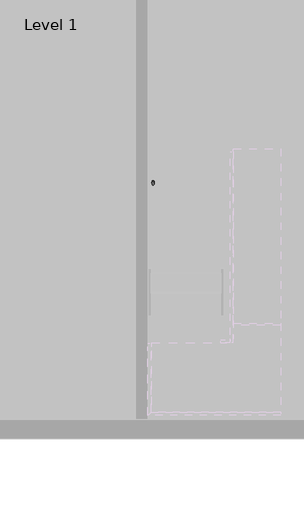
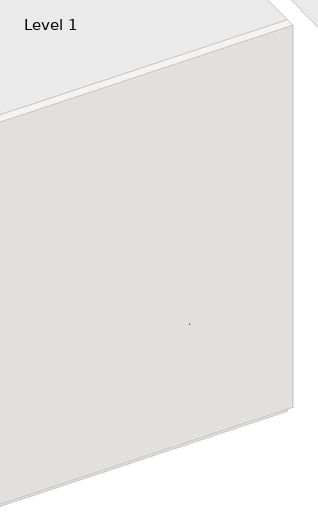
# One storey, part 20 of 27: 1 railing.
"""IFC4 building model written with IfcOpenShell, lengths in millimetres."""

from ifc_helpers import new_model, si_unit, point, frame, frame_2d, origin, place, context, project, spatial, circle_curve, ellipse_curve, trimmed, segment, composite_curve, outline, extrude, element, save
from ifc_brep_helpers import plane_surface, cylinder_surface, revolved_surface, advanced_brep

model = new_model("IFC4")

# Units and contexts
model_context = context("Model", 3, world=origin())
ifc_project = project(units=[si_unit("LENGTHUNIT", "METRE", prefix="MILLI")], contexts=[model_context])

# Site, building, storey
site = spatial("IfcSite", under=ifc_project)
building = spatial("IfcBuilding", under=site)
storey = spatial("IfcBuildingStorey", under=building, Name="Level 1", Elevation=0.0)

# Railing
placement = place(None, origin())
element("IfcRailing", 1, ObjectType="Handrail - Pipe - Wall-Ramp", at=placement, inside=storey, context=model_context, shape_type="SolidModel", body=[
    advanced_brep(
    [(54299.9173382, -19540.7006057, 4864.631259), (54261.8173382, -19540.7006057, 4864.631259), (54299.9173382, -22290.7006057, 6591.9039863), (54261.8173382, -22290.7006057, 6591.9039863)],
    [
        (0, 1, ellipse_curve(frame((54280.8673382, -19540.7006057, 4864.631259), z_axis=(0.0, 1.0, 0.0), x_axis=(0.0, 0.0, -1.0)), 22.496014, 19.05)),
        (1, 0, ellipse_curve(frame((54280.8673382, -19540.7006057, 4864.631259), z_axis=(0.0, 1.0, 0.0), x_axis=(0.0, 0.0, -1.0)), 22.496014, 19.05)),
        (2, 3, ellipse_curve(frame((54280.8673382, -22290.7006057, 6591.9039863), z_axis=(0.0, -1.0, 0.0), x_axis=(0.0, 0.0, -1.0)), 22.496014, 19.05)),
        (3, 2, ellipse_curve(frame((54280.8673382, -22290.7006057, 6591.9039863), z_axis=(0.0, -1.0, 0.0), x_axis=(0.0, 0.0, -1.0)), 22.496014, 19.05)),
        (0, 2),
        (3, 1),
    ],
    [
        plane_surface(frame((54280.8673382, -19540.7006057, 4887.127273), z_axis=(0.0, 1.0, 0.0), x_axis=(0.0, 0.0, -1.0))),
        plane_surface(frame((54280.8673382, -22290.7006057, 6614.4000003), z_axis=(0.0, -1.0, 0.0), x_axis=(0.0, 0.0, -1.0))),
        cylinder_surface(frame((54280.8673382, -19550.8330123, 4870.9954152), z_axis=(0.0, 0.8468166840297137, -0.5318848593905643), x_axis=(-1.0, 0.0, 0.0)), 19.05),
    ],
    [
        (0, [[1, 2]]),
        (1, [[3, 4]]),
        (2, [[-1, 5, -4, 6]]),
        (2, [[-2, -6, -3, -5]]),
    ],
),
    advanced_brep(
    [(54280.9173382, -21518.9506057, 6119.6028929), (54280.9173382, -21531.6506057, 6119.6028929), (54280.9173382, -21518.9506057, 6062.4528929), (54280.9173382, -21531.6506057, 6062.4528929), (54261.8673382, -21531.6506057, 6043.4028929), (54261.8673382, -21518.9506057, 6043.4028929), (54233.2923382, -21518.9506057, 6043.4028929), (54233.2923382, -21531.6506057, 6043.4028929)],
    [
        (0, 1, circle_curve(frame((54280.9173382, -21525.3006057, 6119.6028929), z_axis=(0.0, 0.0, 1.0), x_axis=(0.0, -1.0, 0.0)), 6.35)),
        (1, 0, circle_curve(frame((54280.9173382, -21525.3006057, 6119.6028929), z_axis=(0.0, 0.0, 1.0), x_axis=(0.0, -1.0, 0.0)), 6.35)),
        (0, 2),
        (2, 3, circle_curve(frame((54280.9173382, -21525.3006057, 6062.4528929), z_axis=(0.0, 0.0, 1.0), x_axis=(0.0, -1.0, 0.0)), 6.35)),
        (3, 1),
        (3, 2, circle_curve(frame((54280.9173382, -21525.3006057, 6062.4528929), z_axis=(0.0, 0.0, 1.0), x_axis=(0.0, -1.0, 0.0)), 6.35)),
        (4, 3, circle_curve(frame((54261.8673382, -21531.6506057, 6062.4528929), z_axis=(0.0, -1.0, 0.0), x_axis=(1.0, 0.0, 0.0)), 19.05)),
        (2, 5, circle_curve(frame((54261.8673382, -21518.9506057, 6062.4528929), z_axis=(0.0, 1.0, 0.0), x_axis=(1.0, 0.0, 0.0)), 19.05)),
        (5, 4, circle_curve(frame((54261.8673382, -21525.3006057, 6043.4028929), z_axis=(1.0, 0.0, 0.0), x_axis=(0.0, -1.0, 0.0)), 6.35)),
        (4, 5, circle_curve(frame((54261.8673382, -21525.3006057, 6043.4028929), z_axis=(1.0, 0.0, 0.0), x_axis=(0.0, -1.0, 0.0)), 6.35)),
        (6, 7, circle_curve(frame((54233.2923382, -21525.3006057, 6043.4028929), z_axis=(-1.0, 0.0, 0.0), x_axis=(0.0, -1.0, 0.0)), 6.35)),
        (7, 6, circle_curve(frame((54233.2923382, -21525.3006057, 6043.4028929), z_axis=(-1.0, 0.0, 0.0), x_axis=(0.0, -1.0, 0.0)), 6.35)),
        (5, 6),
        (7, 4),
    ],
    [
        plane_surface(frame((54280.9173382, -21531.6506057, 6119.6028929), z_axis=(0.0, 0.0, 1.0), x_axis=(-1.0, 0.0, 0.0))),
        cylinder_surface(frame((54280.9173382, -21525.3006057, 6119.6028929), z_axis=(0.0, 0.0, 1.0), x_axis=(0.0, -1.0, 0.0)), 6.35),
        revolved_surface(trimmed(ellipse_curve(frame((54280.9173382, -21525.3006057, 6062.4528929), z_axis=(0.0, 0.0, 1.0), x_axis=(0.0, -1.0, 0.0)), 6.35, 6.35), [point((54280.9173382, -21518.9506057, 6062.4528929))], [point((54280.9173382, -21531.6506057, 6062.4528929))], True, "CARTESIAN"), (54261.8673382, -21525.3006057, 6062.4528929), (0.0, 1.0, 0.0)),
        revolved_surface(trimmed(ellipse_curve(frame((54280.9173382, -21525.3006057, 6062.4528929), z_axis=(0.0, 0.0, 1.0), x_axis=(0.0, -1.0, 0.0)), 6.35, 6.35), [point((54280.9173382, -21531.6506057, 6062.4528929))], [point((54280.9173382, -21518.9506057, 6062.4528929))], True, "CARTESIAN"), (54261.8673382, -21525.3006057, 6062.4528929), (0.0, 1.0, 0.0)),
        plane_surface(frame((54233.2923382, -21525.3006057, 6037.0528929), z_axis=(-1.0, 0.0, 0.0), x_axis=(0.0, -1.0, 0.0))),
        cylinder_surface(frame((54261.8673382, -21525.3006057, 6043.4028929), z_axis=(1.0, 0.0, 0.0), x_axis=(0.0, -1.0, 0.0)), 6.35),
    ],
    [
        (0, [[1, 2]]),
        (1, [[-1, 3, 4, 5]]),
        (1, [[-2, -5, 6, -3]]),
        (2, [[7, -4, 8, 9]]),
        (3, [[-8, -6, -7, 10]]),
        (4, [[11, 12]]),
        (5, [[-9, 13, -12, 14]]),
        (5, [[-10, -14, -11, -13]]),
    ],
),
    extrude(outline(composite_curve([segment(trimmed(circle_curve(frame_2d((-21525.3006057, 6043.4028929)), 25.4), [point((-21550.7006057, 6043.4028929))], [point((-21499.9006057, 6043.4028929))], False, "CARTESIAN"), True, "CONTINUOUS"), segment(trimmed(circle_curve(frame_2d((-21525.3006057, 6043.4028929)), 25.4), [point((-21499.9006057, 6043.4028929))], [point((-21550.7006057, 6043.4028929))], False, "CARTESIAN"), True, "CONTINUOUS")], self_intersect=False)), frame((54223.7673382, 0.0, 0.0), z_axis=(1.0, 0.0, 0.0), x_axis=(0.0, 1.0, 0.0)), (0.0, 0.0, 1.0), 9.525),
    advanced_brep(
    [(54280.9173382, -20299.7506057, 5353.8243805), (54280.9173382, -20312.4506057, 5353.8243805), (54280.9173382, -20299.7506057, 5296.6743805), (54280.9173382, -20312.4506057, 5296.6743805), (54261.8673382, -20312.4506057, 5277.6243805), (54261.8673382, -20299.7506057, 5277.6243805), (54233.2923382, -20299.7506057, 5277.6243805), (54233.2923382, -20312.4506057, 5277.6243805)],
    [
        (0, 1, circle_curve(frame((54280.9173382, -20306.1006057, 5353.8243805), z_axis=(0.0, 0.0, 1.0), x_axis=(0.0, -1.0, 0.0)), 6.35)),
        (1, 0, circle_curve(frame((54280.9173382, -20306.1006057, 5353.8243805), z_axis=(0.0, 0.0, 1.0), x_axis=(0.0, -1.0, 0.0)), 6.35)),
        (0, 2),
        (2, 3, circle_curve(frame((54280.9173382, -20306.1006057, 5296.6743805), z_axis=(0.0, 0.0, 1.0), x_axis=(0.0, -1.0, 0.0)), 6.35)),
        (3, 1),
        (3, 2, circle_curve(frame((54280.9173382, -20306.1006057, 5296.6743805), z_axis=(0.0, 0.0, 1.0), x_axis=(0.0, -1.0, 0.0)), 6.35)),
        (4, 3, circle_curve(frame((54261.8673382, -20312.4506057, 5296.6743805), z_axis=(0.0, -1.0, 0.0), x_axis=(1.0, 0.0, 0.0)), 19.05)),
        (2, 5, circle_curve(frame((54261.8673382, -20299.7506057, 5296.6743805), z_axis=(0.0, 1.0, 0.0), x_axis=(1.0, 0.0, 0.0)), 19.05)),
        (5, 4, circle_curve(frame((54261.8673382, -20306.1006057, 5277.6243805), z_axis=(1.0, 0.0, 0.0), x_axis=(0.0, -1.0, 0.0)), 6.35)),
        (4, 5, circle_curve(frame((54261.8673382, -20306.1006057, 5277.6243805), z_axis=(1.0, 0.0, 0.0), x_axis=(0.0, -1.0, 0.0)), 6.35)),
        (6, 7, circle_curve(frame((54233.2923382, -20306.1006057, 5277.6243805), z_axis=(-1.0, 0.0, 0.0), x_axis=(0.0, -1.0, 0.0)), 6.35)),
        (7, 6, circle_curve(frame((54233.2923382, -20306.1006057, 5277.6243805), z_axis=(-1.0, 0.0, 0.0), x_axis=(0.0, -1.0, 0.0)), 6.35)),
        (5, 6),
        (7, 4),
    ],
    [
        plane_surface(frame((54280.9173382, -20312.4506057, 5353.8243805), z_axis=(0.0, 0.0, 1.0), x_axis=(-1.0, 0.0, 0.0))),
        cylinder_surface(frame((54280.9173382, -20306.1006057, 5353.8243805), z_axis=(0.0, 0.0, 1.0), x_axis=(0.0, -1.0, 0.0)), 6.35),
        revolved_surface(trimmed(ellipse_curve(frame((54280.9173382, -20306.1006057, 5296.6743805), z_axis=(0.0, 0.0, 1.0), x_axis=(0.0, -1.0, 0.0)), 6.35, 6.35), [point((54280.9173382, -20299.7506057, 5296.6743805))], [point((54280.9173382, -20312.4506057, 5296.6743805))], True, "CARTESIAN"), (54261.8673382, -20306.1006057, 5296.6743805), (0.0, 1.0, 0.0)),
        revolved_surface(trimmed(ellipse_curve(frame((54280.9173382, -20306.1006057, 5296.6743805), z_axis=(0.0, 0.0, 1.0), x_axis=(0.0, -1.0, 0.0)), 6.35, 6.35), [point((54280.9173382, -20312.4506057, 5296.6743805))], [point((54280.9173382, -20299.7506057, 5296.6743805))], True, "CARTESIAN"), (54261.8673382, -20306.1006057, 5296.6743805), (0.0, 1.0, 0.0)),
        plane_surface(frame((54233.2923382, -20306.1006057, 5271.2743805), z_axis=(-1.0, 0.0, 0.0), x_axis=(0.0, -1.0, 0.0))),
        cylinder_surface(frame((54261.8673382, -20306.1006057, 5277.6243805), z_axis=(1.0, 0.0, 0.0), x_axis=(0.0, -1.0, 0.0)), 6.35),
    ],
    [
        (0, [[1, 2]]),
        (1, [[-1, 3, 4, 5]]),
        (1, [[-2, -5, 6, -3]]),
        (2, [[7, -4, 8, 9]]),
        (3, [[-8, -6, -7, 10]]),
        (4, [[11, 12]]),
        (5, [[-9, 13, -12, 14]]),
        (5, [[-10, -14, -11, -13]]),
    ],
),
    extrude(outline(composite_curve([segment(trimmed(circle_curve(frame_2d((-20306.1006057, 5277.6243805)), 25.4), [point((-20331.5006057, 5277.6243805))], [point((-20280.7006057, 5277.6243805))], False, "CARTESIAN"), True, "CONTINUOUS"), segment(trimmed(circle_curve(frame_2d((-20306.1006057, 5277.6243805)), 25.4), [point((-20280.7006057, 5277.6243805))], [point((-20331.5006057, 5277.6243805))], False, "CARTESIAN"), True, "CONTINUOUS")], self_intersect=False)), frame((54223.7673382, 0.0, 0.0), z_axis=(1.0, 0.0, 0.0), x_axis=(0.0, 1.0, 0.0)), (0.0, 0.0, 1.0), 9.525),
    advanced_brep(
    [(54261.8673382, -22278.0006057, 6590.3731408), (54299.9673382, -22278.0006057, 6590.3731408), (54261.8673382, -22544.7006057, 6590.3731408), (54299.9673382, -22544.7006057, 6590.3731408), (54223.7673382, -22563.7506057, 6590.3731408), (54223.7673382, -22601.8506057, 6590.3731408), (54242.8173382, -22601.8506057, 6590.3731408), (54242.8173382, -22563.7506057, 6590.3731408)],
    [
        (0, 1, circle_curve(frame((54280.9173382, -22278.0006057, 6590.3731408), z_axis=(0.0, 1.0, 0.0), x_axis=(1.0, 0.0, 0.0)), 19.05)),
        (1, 0, circle_curve(frame((54280.9173382, -22278.0006057, 6590.3731408), z_axis=(0.0, 1.0, 0.0), x_axis=(1.0, 0.0, 0.0)), 19.05)),
        (0, 2),
        (2, 3, circle_curve(frame((54280.9173382, -22544.7006057, 6590.3731408), z_axis=(0.0, 1.0, 0.0), x_axis=(1.0, 0.0, 0.0)), 19.05)),
        (3, 1),
        (3, 2, circle_curve(frame((54280.9173382, -22544.7006057, 6590.3731408), z_axis=(0.0, 1.0, 0.0), x_axis=(1.0, 0.0, 0.0)), 19.05)),
        (4, 5, circle_curve(frame((54223.7673382, -22582.8006057, 6590.3731408), z_axis=(-1.0, 0.0, 0.0), x_axis=(0.0, -1.0, 0.0)), 19.05)),
        (5, 4, circle_curve(frame((54223.7673382, -22582.8006057, 6590.3731408), z_axis=(-1.0, 0.0, 0.0), x_axis=(0.0, -1.0, 0.0)), 19.05)),
        (6, 7, circle_curve(frame((54242.8173382, -22582.8006057, 6590.3731408), z_axis=(-1.0, 0.0, 0.0), x_axis=(0.0, -1.0, 0.0)), 19.05)),
        (7, 4),
        (5, 6),
        (7, 6, circle_curve(frame((54242.8173382, -22582.8006057, 6590.3731408), z_axis=(-1.0, 0.0, 0.0), x_axis=(0.0, -1.0, 0.0)), 19.05)),
        (6, 3, circle_curve(frame((54242.8173382, -22544.7006057, 6590.3731408), z_axis=(0.0, 0.0, 1.0), x_axis=(1.0, 0.0, 0.0)), 57.15)),
        (2, 7, circle_curve(frame((54242.8173382, -22544.7006057, 6590.3731408), z_axis=(0.0, 0.0, -1.0), x_axis=(1.0, 0.0, 0.0)), 19.05)),
    ],
    [
        plane_surface(frame((54280.9173382, -22278.0006057, 6590.3731408), z_axis=(0.0, 1.0, 0.0), x_axis=(0.0, 0.0, 1.0))),
        cylinder_surface(frame((54280.9173382, -22278.0006057, 6590.3731408), z_axis=(0.0, 1.0, 0.0), x_axis=(1.0, 0.0, 0.0)), 19.05),
        plane_surface(frame((54223.7673382, -22582.8006057, 6590.3731408), z_axis=(-1.0, 0.0, 0.0), x_axis=(0.0, 0.0, 1.0))),
        cylinder_surface(frame((54242.8173382, -22582.8006057, 6590.3731408), z_axis=(1.0, 0.0, 0.0), x_axis=(0.0, -1.0, 0.0)), 19.05),
        revolved_surface(trimmed(ellipse_curve(frame((54280.9173382, -22544.7006057, 6590.3731408), z_axis=(0.0, 1.0, 0.0), x_axis=(1.0, 0.0, 0.0)), 19.05, 19.05), [point((54261.8673382, -22544.7006057, 6590.3731408))], [point((54299.9673382, -22544.7006057, 6590.3731408))], True, "CARTESIAN"), (54242.8173382, -22544.7006057, 6590.3731408), (0.0, 0.0, -1.0)),
        revolved_surface(trimmed(ellipse_curve(frame((54280.9173382, -22544.7006057, 6590.3731408), z_axis=(0.0, 1.0, 0.0), x_axis=(1.0, 0.0, 0.0)), 19.05, 19.05), [point((54299.9673382, -22544.7006057, 6590.3731408))], [point((54261.8673382, -22544.7006057, 6590.3731408))], True, "CARTESIAN"), (54242.8173382, -22544.7006057, 6590.3731408), (0.0, 0.0, -1.0)),
    ],
    [
        (0, [[1, 2]]),
        (1, [[-1, 3, 4, 5]]),
        (1, [[-2, -5, 6, -3]]),
        (2, [[7, 8]]),
        (3, [[9, 10, -8, 11]]),
        (3, [[12, -11, -7, -10]]),
        (4, [[13, -4, 14, -9]]),
        (5, [[-14, -6, -13, -12]]),
    ],
),
    advanced_brep(
    [(54233.2923382, -22278.0006057, 6507.8231408), (54233.2923382, -22278.0006057, 6520.5231408), (54261.8673382, -22278.0006057, 6507.8231408), (54261.8673382, -22278.0006057, 6520.5231408), (54287.2673382, -22278.0006057, 6590.3731408), (54274.5673382, -22278.0006057, 6590.3731408), (54274.5673382, -22278.0006057, 6533.2231408), (54287.2673382, -22278.0006057, 6533.2231408)],
    [
        (0, 1, circle_curve(frame((54233.2923382, -22278.0006057, 6514.1731408), z_axis=(-1.0, 0.0, 0.0), x_axis=(0.0, 0.0, 1.0)), 6.35)),
        (1, 0, circle_curve(frame((54233.2923382, -22278.0006057, 6514.1731408), z_axis=(-1.0, 0.0, 0.0), x_axis=(0.0, 0.0, 1.0)), 6.35)),
        (0, 2),
        (2, 3, circle_curve(frame((54261.8673382, -22278.0006057, 6514.1731408), z_axis=(-1.0, 0.0, 0.0), x_axis=(0.0, 0.0, 1.0)), 6.35)),
        (3, 1),
        (3, 2, circle_curve(frame((54261.8673382, -22278.0006057, 6514.1731408), z_axis=(-1.0, 0.0, 0.0), x_axis=(0.0, 0.0, 1.0)), 6.35)),
        (4, 5, circle_curve(frame((54280.9173382, -22278.0006057, 6590.3731408), z_axis=(0.0, 0.0, 1.0), x_axis=(-1.0, 0.0, 0.0)), 6.35)),
        (5, 4, circle_curve(frame((54280.9173382, -22278.0006057, 6590.3731408), z_axis=(0.0, 0.0, 1.0), x_axis=(-1.0, 0.0, 0.0)), 6.35)),
        (6, 7, circle_curve(frame((54280.9173382, -22278.0006057, 6533.2231408), z_axis=(0.0, 0.0, 1.0), x_axis=(-1.0, 0.0, 0.0)), 6.35)),
        (7, 4),
        (5, 6),
        (7, 6, circle_curve(frame((54280.9173382, -22278.0006057, 6533.2231408), z_axis=(0.0, 0.0, 1.0), x_axis=(-1.0, 0.0, 0.0)), 6.35)),
        (6, 3, circle_curve(frame((54261.8673382, -22278.0006057, 6533.2231408), z_axis=(0.0, 1.0, 0.0), x_axis=(0.0, 0.0, -1.0)), 12.7)),
        (2, 7, circle_curve(frame((54261.8673382, -22278.0006057, 6533.2231408), z_axis=(0.0, -1.0, 0.0), x_axis=(0.0, 0.0, -1.0)), 25.4)),
    ],
    [
        plane_surface(frame((54233.2923382, -22278.0006057, 6514.1731408), z_axis=(-1.0, 0.0, 0.0), x_axis=(0.0, -1.0, 0.0))),
        cylinder_surface(frame((54233.2923382, -22278.0006057, 6514.1731408), z_axis=(-1.0, 0.0, 0.0), x_axis=(0.0, 0.0, 1.0)), 6.35),
        plane_surface(frame((54280.9173382, -22278.0006057, 6590.3731408), z_axis=(0.0, 0.0, 1.0), x_axis=(0.0, -1.0, 0.0))),
        cylinder_surface(frame((54280.9173382, -22278.0006057, 6533.2231408), z_axis=(0.0, 0.0, -1.0), x_axis=(-1.0, 0.0, 0.0)), 6.35),
        revolved_surface(trimmed(ellipse_curve(frame((54261.8673382, -22278.0006057, 6514.1731408), z_axis=(-1.0, 0.0, 0.0), x_axis=(0.0, 0.0, 1.0)), 6.35, 6.35), [point((54261.8673382, -22278.0006057, 6507.8231408))], [point((54261.8673382, -22278.0006057, 6520.5231408))], True, "CARTESIAN"), (54261.8673382, -22278.0006057, 6533.2231408), (0.0, -1.0, 0.0)),
        revolved_surface(trimmed(ellipse_curve(frame((54261.8673382, -22278.0006057, 6514.1731408), z_axis=(-1.0, 0.0, 0.0), x_axis=(0.0, 0.0, 1.0)), 6.35, 6.35), [point((54261.8673382, -22278.0006057, 6520.5231408))], [point((54261.8673382, -22278.0006057, 6507.8231408))], True, "CARTESIAN"), (54261.8673382, -22278.0006057, 6533.2231408), (0.0, -1.0, 0.0)),
    ],
    [
        (0, [[1, 2]]),
        (1, [[-1, 3, 4, 5]]),
        (1, [[-2, -5, 6, -3]]),
        (2, [[7, 8]]),
        (3, [[9, 10, -8, 11]]),
        (3, [[12, -11, -7, -10]]),
        (4, [[13, -4, 14, -9]]),
        (5, [[-14, -6, -13, -12]]),
    ],
),
    extrude(outline(composite_curve([segment(trimmed(circle_curve(frame_2d((-22278.0006057, 6514.1731408)), 25.4), [point((-22303.4006057, 6514.1731408))], [point((-22252.6006057, 6514.1731408))], False, "CARTESIAN"), True, "CONTINUOUS"), segment(trimmed(circle_curve(frame_2d((-22278.0006057, 6514.1731408)), 25.4), [point((-22252.6006057, 6514.1731408))], [point((-22303.4006057, 6514.1731408))], False, "CARTESIAN"), True, "CONTINUOUS")], self_intersect=False)), frame((54223.7673382, 0.0, 0.0), z_axis=(1.0, 0.0, 0.0), x_axis=(0.0, 1.0, 0.0)), (0.0, 0.0, 1.0), 9.525),
    advanced_brep(
    [(54223.7673382, -19267.6506057, 4879.0541325), (54223.7673382, -19229.5506057, 4879.0541325), (54242.8173382, -19267.6506057, 4879.0541325), (54242.8173382, -19229.5506057, 4879.0541325), (54299.9673382, -19286.7006057, 4879.0541325), (54261.8673382, -19286.7006057, 4879.0541325), (54261.8673382, -19553.4006057, 4879.0541325), (54299.9673382, -19553.4006057, 4879.0541325)],
    [
        (0, 1, circle_curve(frame((54223.7673382, -19248.6006057, 4879.0541325), z_axis=(-1.0, 0.0, 0.0), x_axis=(0.0, 1.0, 0.0)), 19.05)),
        (1, 0, circle_curve(frame((54223.7673382, -19248.6006057, 4879.0541325), z_axis=(-1.0, 0.0, 0.0), x_axis=(0.0, 1.0, 0.0)), 19.05)),
        (0, 2),
        (2, 3, circle_curve(frame((54242.8173382, -19248.6006057, 4879.0541325), z_axis=(-1.0, 0.0, 0.0), x_axis=(0.0, 1.0, 0.0)), 19.05)),
        (3, 1),
        (3, 2, circle_curve(frame((54242.8173382, -19248.6006057, 4879.0541325), z_axis=(-1.0, 0.0, 0.0), x_axis=(0.0, 1.0, 0.0)), 19.05)),
        (4, 3, circle_curve(frame((54242.8173382, -19286.7006057, 4879.0541325), z_axis=(0.0, 0.0, 1.0), x_axis=(0.0, 1.0, 0.0)), 57.15)),
        (2, 5, circle_curve(frame((54242.8173382, -19286.7006057, 4879.0541325), z_axis=(0.0, 0.0, -1.0), x_axis=(0.0, 1.0, 0.0)), 19.05)),
        (5, 4, circle_curve(frame((54280.9173382, -19286.7006057, 4879.0541325), z_axis=(0.0, 1.0, 0.0), x_axis=(1.0, 0.0, 0.0)), 19.05)),
        (4, 5, circle_curve(frame((54280.9173382, -19286.7006057, 4879.0541325), z_axis=(0.0, 1.0, 0.0), x_axis=(1.0, 0.0, 0.0)), 19.05)),
        (6, 7, circle_curve(frame((54280.9173382, -19553.4006057, 4879.0541325), z_axis=(0.0, -1.0, 0.0), x_axis=(1.0, 0.0, 0.0)), 19.05)),
        (7, 6, circle_curve(frame((54280.9173382, -19553.4006057, 4879.0541325), z_axis=(0.0, -1.0, 0.0), x_axis=(1.0, 0.0, 0.0)), 19.05)),
        (5, 6),
        (7, 4),
    ],
    [
        plane_surface(frame((54223.7673382, -19248.6006057, 4879.0541325), z_axis=(-1.0, 0.0, 0.0), x_axis=(0.0, 0.0, 1.0))),
        cylinder_surface(frame((54223.7673382, -19248.6006057, 4879.0541325), z_axis=(-1.0, 0.0, 0.0), x_axis=(0.0, 1.0, 0.0)), 19.05),
        revolved_surface(trimmed(ellipse_curve(frame((54242.8173382, -19248.6006057, 4879.0541325), z_axis=(-1.0, 0.0, 0.0), x_axis=(0.0, 1.0, 0.0)), 19.05, 19.05), [point((54242.8173382, -19267.6506057, 4879.0541325))], [point((54242.8173382, -19229.5506057, 4879.0541325))], True, "CARTESIAN"), (54242.8173382, -19286.7006057, 4879.0541325), (0.0, 0.0, -1.0)),
        revolved_surface(trimmed(ellipse_curve(frame((54242.8173382, -19248.6006057, 4879.0541325), z_axis=(-1.0, 0.0, 0.0), x_axis=(0.0, 1.0, 0.0)), 19.05, 19.05), [point((54242.8173382, -19229.5506057, 4879.0541325))], [point((54242.8173382, -19267.6506057, 4879.0541325))], True, "CARTESIAN"), (54242.8173382, -19286.7006057, 4879.0541325), (0.0, 0.0, -1.0)),
        plane_surface(frame((54280.9173382, -19553.4006057, 4879.0541325), z_axis=(0.0, -1.0, 0.0), x_axis=(0.0, 0.0, 1.0))),
        cylinder_surface(frame((54280.9173382, -19286.7006057, 4879.0541325), z_axis=(0.0, 1.0, 0.0), x_axis=(1.0, 0.0, 0.0)), 19.05),
    ],
    [
        (0, [[1, 2]]),
        (1, [[-1, 3, 4, 5]]),
        (1, [[-2, -5, 6, -3]]),
        (2, [[7, -4, 8, 9]]),
        (3, [[-8, -6, -7, 10]]),
        (4, [[11, 12]]),
        (5, [[-9, 13, -12, 14]]),
        (5, [[-10, -14, -11, -13]]),
    ],
),
    advanced_brep(
    [(54233.2923382, -19553.4006057, 4796.5041325), (54233.2923382, -19553.4006057, 4809.2041325), (54261.8673382, -19553.4006057, 4796.5041325), (54261.8673382, -19553.4006057, 4809.2041325), (54274.5673382, -19553.4006057, 4821.9041325), (54287.2673382, -19553.4006057, 4821.9041325), (54287.2673382, -19553.4006057, 4879.0541325), (54274.5673382, -19553.4006057, 4879.0541325)],
    [
        (0, 1, circle_curve(frame((54233.2923382, -19553.4006057, 4802.8541325), z_axis=(-1.0, 0.0, 0.0), x_axis=(0.0, 0.0, 1.0)), 6.35)),
        (1, 0, circle_curve(frame((54233.2923382, -19553.4006057, 4802.8541325), z_axis=(-1.0, 0.0, 0.0), x_axis=(0.0, 0.0, 1.0)), 6.35)),
        (0, 2),
        (2, 3, circle_curve(frame((54261.8673382, -19553.4006057, 4802.8541325), z_axis=(-1.0, 0.0, 0.0), x_axis=(0.0, 0.0, 1.0)), 6.35)),
        (3, 1),
        (3, 2, circle_curve(frame((54261.8673382, -19553.4006057, 4802.8541325), z_axis=(-1.0, 0.0, 0.0), x_axis=(0.0, 0.0, 1.0)), 6.35)),
        (4, 3, circle_curve(frame((54261.8673382, -19553.4006057, 4821.9041325), z_axis=(0.0, 1.0, 0.0), x_axis=(0.0, 0.0, -1.0)), 12.7)),
        (2, 5, circle_curve(frame((54261.8673382, -19553.4006057, 4821.9041325), z_axis=(0.0, -1.0, 0.0), x_axis=(0.0, 0.0, -1.0)), 25.4)),
        (5, 4, circle_curve(frame((54280.9173382, -19553.4006057, 4821.9041325), z_axis=(0.0, 0.0, -1.0), x_axis=(-1.0, 0.0, 0.0)), 6.35)),
        (4, 5, circle_curve(frame((54280.9173382, -19553.4006057, 4821.9041325), z_axis=(0.0, 0.0, -1.0), x_axis=(-1.0, 0.0, 0.0)), 6.35)),
        (6, 7, circle_curve(frame((54280.9173382, -19553.4006057, 4879.0541325), z_axis=(0.0, 0.0, 1.0), x_axis=(-1.0, 0.0, 0.0)), 6.35)),
        (7, 6, circle_curve(frame((54280.9173382, -19553.4006057, 4879.0541325), z_axis=(0.0, 0.0, 1.0), x_axis=(-1.0, 0.0, 0.0)), 6.35)),
        (5, 6),
        (7, 4),
    ],
    [
        plane_surface(frame((54233.2923382, -19553.4006057, 4802.8541325), z_axis=(-1.0, 0.0, 0.0), x_axis=(0.0, -1.0, 0.0))),
        cylinder_surface(frame((54233.2923382, -19553.4006057, 4802.8541325), z_axis=(-1.0, 0.0, 0.0), x_axis=(0.0, 0.0, 1.0)), 6.35),
        revolved_surface(trimmed(ellipse_curve(frame((54261.8673382, -19553.4006057, 4802.8541325), z_axis=(-1.0, 0.0, 0.0), x_axis=(0.0, 0.0, 1.0)), 6.35, 6.35), [point((54261.8673382, -19553.4006057, 4796.5041325))], [point((54261.8673382, -19553.4006057, 4809.2041325))], True, "CARTESIAN"), (54261.8673382, -19553.4006057, 4821.9041325), (0.0, -1.0, 0.0)),
        revolved_surface(trimmed(ellipse_curve(frame((54261.8673382, -19553.4006057, 4802.8541325), z_axis=(-1.0, 0.0, 0.0), x_axis=(0.0, 0.0, 1.0)), 6.35, 6.35), [point((54261.8673382, -19553.4006057, 4809.2041325))], [point((54261.8673382, -19553.4006057, 4796.5041325))], True, "CARTESIAN"), (54261.8673382, -19553.4006057, 4821.9041325), (0.0, -1.0, 0.0)),
        plane_surface(frame((54280.9173382, -19553.4006057, 4879.0541325), z_axis=(0.0, 0.0, 1.0), x_axis=(0.0, -1.0, 0.0))),
        cylinder_surface(frame((54280.9173382, -19553.4006057, 4821.9041325), z_axis=(0.0, 0.0, -1.0), x_axis=(-1.0, 0.0, 0.0)), 6.35),
    ],
    [
        (0, [[1, 2]]),
        (1, [[-1, 3, 4, 5]]),
        (1, [[-2, -5, 6, -3]]),
        (2, [[7, -4, 8, 9]]),
        (3, [[-8, -6, -7, 10]]),
        (4, [[11, 12]]),
        (5, [[-9, 13, -12, 14]]),
        (5, [[-10, -14, -11, -13]]),
    ],
),
    extrude(outline(composite_curve([segment(trimmed(circle_curve(frame_2d((-19553.4006057, 4802.8541325)), 25.4), [point((-19578.8006057, 4802.8541325))], [point((-19528.0006057, 4802.8541325))], False, "CARTESIAN"), True, "CONTINUOUS"), segment(trimmed(circle_curve(frame_2d((-19553.4006057, 4802.8541325)), 25.4), [point((-19528.0006057, 4802.8541325))], [point((-19578.8006057, 4802.8541325))], False, "CARTESIAN"), True, "CONTINUOUS")], self_intersect=False)), frame((54223.7673382, 0.0, 0.0), z_axis=(1.0, 0.0, 0.0), x_axis=(0.0, 1.0, 0.0)), (0.0, 0.0, 1.0), 9.525),
    advanced_brep(
    [(54299.9173382, -19540.7006057, 1064.6312587), (54261.8173382, -19540.7006057, 1064.6312587), (54299.9173382, -22290.7006057, 2791.903986), (54261.8173382, -22290.7006057, 2791.903986)],
    [
        (0, 1, ellipse_curve(frame((54280.8673382, -19540.7006057, 1064.6312587), z_axis=(0.0, 1.0, 0.0), x_axis=(0.0, 0.0, -1.0)), 22.496014, 19.05)),
        (1, 0, ellipse_curve(frame((54280.8673382, -19540.7006057, 1064.6312587), z_axis=(0.0, 1.0, 0.0), x_axis=(0.0, 0.0, -1.0)), 22.496014, 19.05)),
        (2, 3, ellipse_curve(frame((54280.8673382, -22290.7006057, 2791.903986), z_axis=(0.0, -1.0, 0.0), x_axis=(0.0, 0.0, -1.0)), 22.496014, 19.05)),
        (3, 2, ellipse_curve(frame((54280.8673382, -22290.7006057, 2791.903986), z_axis=(0.0, -1.0, 0.0), x_axis=(0.0, 0.0, -1.0)), 22.496014, 19.05)),
        (0, 2),
        (3, 1),
    ],
    [
        plane_surface(frame((54280.8673382, -19540.7006057, 1087.1272727), z_axis=(0.0, 1.0, 0.0), x_axis=(0.0, 0.0, -1.0))),
        plane_surface(frame((54280.8673382, -22290.7006057, 2814.4), z_axis=(0.0, -1.0, 0.0), x_axis=(0.0, 0.0, -1.0))),
        cylinder_surface(frame((54280.8673382, -19550.8330123, 1070.9954149), z_axis=(0.0, 0.8468166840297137, -0.5318848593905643), x_axis=(-1.0, 0.0, 0.0)), 19.05),
    ],
    [
        (0, [[1, 2]]),
        (1, [[3, 4]]),
        (2, [[-1, 5, -4, 6]]),
        (2, [[-2, -6, -3, -5]]),
    ],
),
    advanced_brep(
    [(54280.9173382, -21518.9506057, 2319.6028926), (54280.9173382, -21531.6506057, 2319.6028926), (54280.9173382, -21518.9506057, 2262.4528926), (54280.9173382, -21531.6506057, 2262.4528926), (54261.8673382, -21531.6506057, 2243.4028926), (54261.8673382, -21518.9506057, 2243.4028926), (54233.2923382, -21518.9506057, 2243.4028926), (54233.2923382, -21531.6506057, 2243.4028926)],
    [
        (0, 1, circle_curve(frame((54280.9173382, -21525.3006057, 2319.6028926), z_axis=(0.0, 0.0, 1.0), x_axis=(0.0, -1.0, 0.0)), 6.35)),
        (1, 0, circle_curve(frame((54280.9173382, -21525.3006057, 2319.6028926), z_axis=(0.0, 0.0, 1.0), x_axis=(0.0, -1.0, 0.0)), 6.35)),
        (0, 2),
        (2, 3, circle_curve(frame((54280.9173382, -21525.3006057, 2262.4528926), z_axis=(0.0, 0.0, 1.0), x_axis=(0.0, -1.0, 0.0)), 6.35)),
        (3, 1),
        (3, 2, circle_curve(frame((54280.9173382, -21525.3006057, 2262.4528926), z_axis=(0.0, 0.0, 1.0), x_axis=(0.0, -1.0, 0.0)), 6.35)),
        (4, 3, circle_curve(frame((54261.8673382, -21531.6506057, 2262.4528926), z_axis=(0.0, -1.0, 0.0), x_axis=(1.0, 0.0, 0.0)), 19.05)),
        (2, 5, circle_curve(frame((54261.8673382, -21518.9506057, 2262.4528926), z_axis=(0.0, 1.0, 0.0), x_axis=(1.0, 0.0, 0.0)), 19.05)),
        (5, 4, circle_curve(frame((54261.8673382, -21525.3006057, 2243.4028926), z_axis=(1.0, 0.0, 0.0), x_axis=(0.0, -1.0, 0.0)), 6.35)),
        (4, 5, circle_curve(frame((54261.8673382, -21525.3006057, 2243.4028926), z_axis=(1.0, 0.0, 0.0), x_axis=(0.0, -1.0, 0.0)), 6.35)),
        (6, 7, circle_curve(frame((54233.2923382, -21525.3006057, 2243.4028926), z_axis=(-1.0, 0.0, 0.0), x_axis=(0.0, -1.0, 0.0)), 6.35)),
        (7, 6, circle_curve(frame((54233.2923382, -21525.3006057, 2243.4028926), z_axis=(-1.0, 0.0, 0.0), x_axis=(0.0, -1.0, 0.0)), 6.35)),
        (5, 6),
        (7, 4),
    ],
    [
        plane_surface(frame((54280.9173382, -21531.6506057, 2319.6028926), z_axis=(0.0, 0.0, 1.0), x_axis=(-1.0, 0.0, 0.0))),
        cylinder_surface(frame((54280.9173382, -21525.3006057, 2319.6028926), z_axis=(0.0, 0.0, 1.0), x_axis=(0.0, -1.0, 0.0)), 6.35),
        revolved_surface(trimmed(ellipse_curve(frame((54280.9173382, -21525.3006057, 2262.4528926), z_axis=(0.0, 0.0, 1.0), x_axis=(0.0, -1.0, 0.0)), 6.35, 6.35), [point((54280.9173382, -21518.9506057, 2262.4528926))], [point((54280.9173382, -21531.6506057, 2262.4528926))], True, "CARTESIAN"), (54261.8673382, -21525.3006057, 2262.4528926), (0.0, 1.0, 0.0)),
        revolved_surface(trimmed(ellipse_curve(frame((54280.9173382, -21525.3006057, 2262.4528926), z_axis=(0.0, 0.0, 1.0), x_axis=(0.0, -1.0, 0.0)), 6.35, 6.35), [point((54280.9173382, -21531.6506057, 2262.4528926))], [point((54280.9173382, -21518.9506057, 2262.4528926))], True, "CARTESIAN"), (54261.8673382, -21525.3006057, 2262.4528926), (0.0, 1.0, 0.0)),
        plane_surface(frame((54233.2923382, -21525.3006057, 2237.0528926), z_axis=(-1.0, 0.0, 0.0), x_axis=(0.0, -1.0, 0.0))),
        cylinder_surface(frame((54261.8673382, -21525.3006057, 2243.4028926), z_axis=(1.0, 0.0, 0.0), x_axis=(0.0, -1.0, 0.0)), 6.35),
    ],
    [
        (0, [[1, 2]]),
        (1, [[-1, 3, 4, 5]]),
        (1, [[-2, -5, 6, -3]]),
        (2, [[7, -4, 8, 9]]),
        (3, [[-8, -6, -7, 10]]),
        (4, [[11, 12]]),
        (5, [[-9, 13, -12, 14]]),
        (5, [[-10, -14, -11, -13]]),
    ],
),
    extrude(outline(composite_curve([segment(trimmed(circle_curve(frame_2d((-21525.3006057, 2243.4028926)), 25.4), [point((-21550.7006057, 2243.4028926))], [point((-21499.9006057, 2243.4028926))], False, "CARTESIAN"), True, "CONTINUOUS"), segment(trimmed(circle_curve(frame_2d((-21525.3006057, 2243.4028926)), 25.4), [point((-21499.9006057, 2243.4028926))], [point((-21550.7006057, 2243.4028926))], False, "CARTESIAN"), True, "CONTINUOUS")], self_intersect=False)), frame((54223.7673382, 0.0, 0.0), z_axis=(1.0, 0.0, 0.0), x_axis=(0.0, 1.0, 0.0)), (0.0, 0.0, 1.0), 9.525),
    advanced_brep(
    [(54280.9173382, -20299.7506057, 1553.8243802), (54280.9173382, -20312.4506057, 1553.8243802), (54280.9173382, -20299.7506057, 1496.6743802), (54280.9173382, -20312.4506057, 1496.6743802), (54261.8673382, -20312.4506057, 1477.6243802), (54261.8673382, -20299.7506057, 1477.6243802), (54233.2923382, -20299.7506057, 1477.6243802), (54233.2923382, -20312.4506057, 1477.6243802)],
    [
        (0, 1, circle_curve(frame((54280.9173382, -20306.1006057, 1553.8243802), z_axis=(0.0, 0.0, 1.0), x_axis=(0.0, -1.0, 0.0)), 6.35)),
        (1, 0, circle_curve(frame((54280.9173382, -20306.1006057, 1553.8243802), z_axis=(0.0, 0.0, 1.0), x_axis=(0.0, -1.0, 0.0)), 6.35)),
        (0, 2),
        (2, 3, circle_curve(frame((54280.9173382, -20306.1006057, 1496.6743802), z_axis=(0.0, 0.0, 1.0), x_axis=(0.0, -1.0, 0.0)), 6.35)),
        (3, 1),
        (3, 2, circle_curve(frame((54280.9173382, -20306.1006057, 1496.6743802), z_axis=(0.0, 0.0, 1.0), x_axis=(0.0, -1.0, 0.0)), 6.35)),
        (4, 3, circle_curve(frame((54261.8673382, -20312.4506057, 1496.6743802), z_axis=(0.0, -1.0, 0.0), x_axis=(1.0, 0.0, 0.0)), 19.05)),
        (2, 5, circle_curve(frame((54261.8673382, -20299.7506057, 1496.6743802), z_axis=(0.0, 1.0, 0.0), x_axis=(1.0, 0.0, 0.0)), 19.05)),
        (5, 4, circle_curve(frame((54261.8673382, -20306.1006057, 1477.6243802), z_axis=(1.0, 0.0, 0.0), x_axis=(0.0, -1.0, 0.0)), 6.35)),
        (4, 5, circle_curve(frame((54261.8673382, -20306.1006057, 1477.6243802), z_axis=(1.0, 0.0, 0.0), x_axis=(0.0, -1.0, 0.0)), 6.35)),
        (6, 7, circle_curve(frame((54233.2923382, -20306.1006057, 1477.6243802), z_axis=(-1.0, 0.0, 0.0), x_axis=(0.0, -1.0, 0.0)), 6.35)),
        (7, 6, circle_curve(frame((54233.2923382, -20306.1006057, 1477.6243802), z_axis=(-1.0, 0.0, 0.0), x_axis=(0.0, -1.0, 0.0)), 6.35)),
        (5, 6),
        (7, 4),
    ],
    [
        plane_surface(frame((54280.9173382, -20312.4506057, 1553.8243802), z_axis=(0.0, 0.0, 1.0), x_axis=(-1.0, 0.0, 0.0))),
        cylinder_surface(frame((54280.9173382, -20306.1006057, 1553.8243802), z_axis=(0.0, 0.0, 1.0), x_axis=(0.0, -1.0, 0.0)), 6.35),
        revolved_surface(trimmed(ellipse_curve(frame((54280.9173382, -20306.1006057, 1496.6743802), z_axis=(0.0, 0.0, 1.0), x_axis=(0.0, -1.0, 0.0)), 6.35, 6.35), [point((54280.9173382, -20299.7506057, 1496.6743802))], [point((54280.9173382, -20312.4506057, 1496.6743802))], True, "CARTESIAN"), (54261.8673382, -20306.1006057, 1496.6743802), (0.0, 1.0, 0.0)),
        revolved_surface(trimmed(ellipse_curve(frame((54280.9173382, -20306.1006057, 1496.6743802), z_axis=(0.0, 0.0, 1.0), x_axis=(0.0, -1.0, 0.0)), 6.35, 6.35), [point((54280.9173382, -20312.4506057, 1496.6743802))], [point((54280.9173382, -20299.7506057, 1496.6743802))], True, "CARTESIAN"), (54261.8673382, -20306.1006057, 1496.6743802), (0.0, 1.0, 0.0)),
        plane_surface(frame((54233.2923382, -20306.1006057, 1471.2743802), z_axis=(-1.0, 0.0, 0.0), x_axis=(0.0, -1.0, 0.0))),
        cylinder_surface(frame((54261.8673382, -20306.1006057, 1477.6243802), z_axis=(1.0, 0.0, 0.0), x_axis=(0.0, -1.0, 0.0)), 6.35),
    ],
    [
        (0, [[1, 2]]),
        (1, [[-1, 3, 4, 5]]),
        (1, [[-2, -5, 6, -3]]),
        (2, [[7, -4, 8, 9]]),
        (3, [[-8, -6, -7, 10]]),
        (4, [[11, 12]]),
        (5, [[-9, 13, -12, 14]]),
        (5, [[-10, -14, -11, -13]]),
    ],
),
    extrude(outline(composite_curve([segment(trimmed(circle_curve(frame_2d((-20306.1006057, 1477.6243802)), 25.4), [point((-20331.5006057, 1477.6243802))], [point((-20280.7006057, 1477.6243802))], False, "CARTESIAN"), True, "CONTINUOUS"), segment(trimmed(circle_curve(frame_2d((-20306.1006057, 1477.6243802)), 25.4), [point((-20280.7006057, 1477.6243802))], [point((-20331.5006057, 1477.6243802))], False, "CARTESIAN"), True, "CONTINUOUS")], self_intersect=False)), frame((54223.7673382, 0.0, 0.0), z_axis=(1.0, 0.0, 0.0), x_axis=(0.0, 1.0, 0.0)), (0.0, 0.0, 1.0), 9.525),
    advanced_brep(
    [(54261.8673382, -22278.0006057, 2790.3731405), (54299.9673382, -22278.0006057, 2790.3731405), (54261.8673382, -22544.7006057, 2790.3731405), (54299.9673382, -22544.7006057, 2790.3731405), (54223.7673382, -22563.7506057, 2790.3731405), (54223.7673382, -22601.8506057, 2790.3731405), (54242.8173382, -22601.8506057, 2790.3731405), (54242.8173382, -22563.7506057, 2790.3731405)],
    [
        (0, 1, circle_curve(frame((54280.9173382, -22278.0006057, 2790.3731405), z_axis=(0.0, 1.0, 0.0), x_axis=(1.0, 0.0, 0.0)), 19.05)),
        (1, 0, circle_curve(frame((54280.9173382, -22278.0006057, 2790.3731405), z_axis=(0.0, 1.0, 0.0), x_axis=(1.0, 0.0, 0.0)), 19.05)),
        (0, 2),
        (2, 3, circle_curve(frame((54280.9173382, -22544.7006057, 2790.3731405), z_axis=(0.0, 1.0, 0.0), x_axis=(1.0, 0.0, 0.0)), 19.05)),
        (3, 1),
        (3, 2, circle_curve(frame((54280.9173382, -22544.7006057, 2790.3731405), z_axis=(0.0, 1.0, 0.0), x_axis=(1.0, 0.0, 0.0)), 19.05)),
        (4, 5, circle_curve(frame((54223.7673382, -22582.8006057, 2790.3731405), z_axis=(-1.0, 0.0, 0.0), x_axis=(0.0, -1.0, 0.0)), 19.05)),
        (5, 4, circle_curve(frame((54223.7673382, -22582.8006057, 2790.3731405), z_axis=(-1.0, 0.0, 0.0), x_axis=(0.0, -1.0, 0.0)), 19.05)),
        (6, 7, circle_curve(frame((54242.8173382, -22582.8006057, 2790.3731405), z_axis=(-1.0, 0.0, 0.0), x_axis=(0.0, -1.0, 0.0)), 19.05)),
        (7, 4),
        (5, 6),
        (7, 6, circle_curve(frame((54242.8173382, -22582.8006057, 2790.3731405), z_axis=(-1.0, 0.0, 0.0), x_axis=(0.0, -1.0, 0.0)), 19.05)),
        (6, 3, circle_curve(frame((54242.8173382, -22544.7006057, 2790.3731405), z_axis=(0.0, 0.0, 1.0), x_axis=(1.0, 0.0, 0.0)), 57.15)),
        (2, 7, circle_curve(frame((54242.8173382, -22544.7006057, 2790.3731405), z_axis=(0.0, 0.0, -1.0), x_axis=(1.0, 0.0, 0.0)), 19.05)),
    ],
    [
        plane_surface(frame((54280.9173382, -22278.0006057, 2790.3731405), z_axis=(0.0, 1.0, 0.0), x_axis=(0.0, 0.0, 1.0))),
        cylinder_surface(frame((54280.9173382, -22278.0006057, 2790.3731405), z_axis=(0.0, 1.0, 0.0), x_axis=(1.0, 0.0, 0.0)), 19.05),
        plane_surface(frame((54223.7673382, -22582.8006057, 2790.3731405), z_axis=(-1.0, 0.0, 0.0), x_axis=(0.0, 0.0, 1.0))),
        cylinder_surface(frame((54242.8173382, -22582.8006057, 2790.3731405), z_axis=(1.0, 0.0, 0.0), x_axis=(0.0, -1.0, 0.0)), 19.05),
        revolved_surface(trimmed(ellipse_curve(frame((54280.9173382, -22544.7006057, 2790.3731405), z_axis=(0.0, 1.0, 0.0), x_axis=(1.0, 0.0, 0.0)), 19.05, 19.05), [point((54261.8673382, -22544.7006057, 2790.3731405))], [point((54299.9673382, -22544.7006057, 2790.3731405))], True, "CARTESIAN"), (54242.8173382, -22544.7006057, 2790.3731405), (0.0, 0.0, -1.0)),
        revolved_surface(trimmed(ellipse_curve(frame((54280.9173382, -22544.7006057, 2790.3731405), z_axis=(0.0, 1.0, 0.0), x_axis=(1.0, 0.0, 0.0)), 19.05, 19.05), [point((54299.9673382, -22544.7006057, 2790.3731405))], [point((54261.8673382, -22544.7006057, 2790.3731405))], True, "CARTESIAN"), (54242.8173382, -22544.7006057, 2790.3731405), (0.0, 0.0, -1.0)),
    ],
    [
        (0, [[1, 2]]),
        (1, [[-1, 3, 4, 5]]),
        (1, [[-2, -5, 6, -3]]),
        (2, [[7, 8]]),
        (3, [[9, 10, -8, 11]]),
        (3, [[12, -11, -7, -10]]),
        (4, [[13, -4, 14, -9]]),
        (5, [[-14, -6, -13, -12]]),
    ],
),
    advanced_brep(
    [(54233.2923382, -22278.0006057, 2707.8231405), (54233.2923382, -22278.0006057, 2720.5231405), (54261.8673382, -22278.0006057, 2707.8231405), (54261.8673382, -22278.0006057, 2720.5231405), (54287.2673382, -22278.0006057, 2790.3731405), (54274.5673382, -22278.0006057, 2790.3731405), (54274.5673382, -22278.0006057, 2733.2231405), (54287.2673382, -22278.0006057, 2733.2231405)],
    [
        (0, 1, circle_curve(frame((54233.2923382, -22278.0006057, 2714.1731405), z_axis=(-1.0, 0.0, 0.0), x_axis=(0.0, 0.0, 1.0)), 6.35)),
        (1, 0, circle_curve(frame((54233.2923382, -22278.0006057, 2714.1731405), z_axis=(-1.0, 0.0, 0.0), x_axis=(0.0, 0.0, 1.0)), 6.35)),
        (0, 2),
        (2, 3, circle_curve(frame((54261.8673382, -22278.0006057, 2714.1731405), z_axis=(-1.0, 0.0, 0.0), x_axis=(0.0, 0.0, 1.0)), 6.35)),
        (3, 1),
        (3, 2, circle_curve(frame((54261.8673382, -22278.0006057, 2714.1731405), z_axis=(-1.0, 0.0, 0.0), x_axis=(0.0, 0.0, 1.0)), 6.35)),
        (4, 5, circle_curve(frame((54280.9173382, -22278.0006057, 2790.3731405), z_axis=(0.0, 0.0, 1.0), x_axis=(-1.0, 0.0, 0.0)), 6.35)),
        (5, 4, circle_curve(frame((54280.9173382, -22278.0006057, 2790.3731405), z_axis=(0.0, 0.0, 1.0), x_axis=(-1.0, 0.0, 0.0)), 6.35)),
        (6, 7, circle_curve(frame((54280.9173382, -22278.0006057, 2733.2231405), z_axis=(0.0, 0.0, 1.0), x_axis=(-1.0, 0.0, 0.0)), 6.35)),
        (7, 4),
        (5, 6),
        (7, 6, circle_curve(frame((54280.9173382, -22278.0006057, 2733.2231405), z_axis=(0.0, 0.0, 1.0), x_axis=(-1.0, 0.0, 0.0)), 6.35)),
        (6, 3, circle_curve(frame((54261.8673382, -22278.0006057, 2733.2231405), z_axis=(0.0, 1.0, 0.0), x_axis=(0.0, 0.0, -1.0)), 12.7)),
        (2, 7, circle_curve(frame((54261.8673382, -22278.0006057, 2733.2231405), z_axis=(0.0, -1.0, 0.0), x_axis=(0.0, 0.0, -1.0)), 25.4)),
    ],
    [
        plane_surface(frame((54233.2923382, -22278.0006057, 2714.1731405), z_axis=(-1.0, 0.0, 0.0), x_axis=(0.0, -1.0, 0.0))),
        cylinder_surface(frame((54233.2923382, -22278.0006057, 2714.1731405), z_axis=(-1.0, 0.0, 0.0), x_axis=(0.0, 0.0, 1.0)), 6.35),
        plane_surface(frame((54280.9173382, -22278.0006057, 2790.3731405), z_axis=(0.0, 0.0, 1.0), x_axis=(0.0, -1.0, 0.0))),
        cylinder_surface(frame((54280.9173382, -22278.0006057, 2733.2231405), z_axis=(0.0, 0.0, -1.0), x_axis=(-1.0, 0.0, 0.0)), 6.35),
        revolved_surface(trimmed(ellipse_curve(frame((54261.8673382, -22278.0006057, 2714.1731405), z_axis=(-1.0, 0.0, 0.0), x_axis=(0.0, 0.0, 1.0)), 6.35, 6.35), [point((54261.8673382, -22278.0006057, 2707.8231405))], [point((54261.8673382, -22278.0006057, 2720.5231405))], True, "CARTESIAN"), (54261.8673382, -22278.0006057, 2733.2231405), (0.0, -1.0, 0.0)),
        revolved_surface(trimmed(ellipse_curve(frame((54261.8673382, -22278.0006057, 2714.1731405), z_axis=(-1.0, 0.0, 0.0), x_axis=(0.0, 0.0, 1.0)), 6.35, 6.35), [point((54261.8673382, -22278.0006057, 2720.5231405))], [point((54261.8673382, -22278.0006057, 2707.8231405))], True, "CARTESIAN"), (54261.8673382, -22278.0006057, 2733.2231405), (0.0, -1.0, 0.0)),
    ],
    [
        (0, [[1, 2]]),
        (1, [[-1, 3, 4, 5]]),
        (1, [[-2, -5, 6, -3]]),
        (2, [[7, 8]]),
        (3, [[9, 10, -8, 11]]),
        (3, [[12, -11, -7, -10]]),
        (4, [[13, -4, 14, -9]]),
        (5, [[-14, -6, -13, -12]]),
    ],
),
    extrude(outline(composite_curve([segment(trimmed(circle_curve(frame_2d((-22278.0006057, 2714.1731405)), 25.4), [point((-22303.4006057, 2714.1731405))], [point((-22252.6006057, 2714.1731405))], False, "CARTESIAN"), True, "CONTINUOUS"), segment(trimmed(circle_curve(frame_2d((-22278.0006057, 2714.1731405)), 25.4), [point((-22252.6006057, 2714.1731405))], [point((-22303.4006057, 2714.1731405))], False, "CARTESIAN"), True, "CONTINUOUS")], self_intersect=False)), frame((54223.7673382, 0.0, 0.0), z_axis=(1.0, 0.0, 0.0), x_axis=(0.0, 1.0, 0.0)), (0.0, 0.0, 1.0), 9.525),
    advanced_brep(
    [(54223.7673382, -19267.6506057, 1079.0541322), (54223.7673382, -19229.5506057, 1079.0541322), (54242.8173382, -19267.6506057, 1079.0541322), (54242.8173382, -19229.5506057, 1079.0541322), (54299.9673382, -19286.7006057, 1079.0541322), (54261.8673382, -19286.7006057, 1079.0541322), (54261.8673382, -19553.4006057, 1079.0541322), (54299.9673382, -19553.4006057, 1079.0541322)],
    [
        (0, 1, circle_curve(frame((54223.7673382, -19248.6006057, 1079.0541322), z_axis=(-1.0, 0.0, 0.0), x_axis=(0.0, 1.0, 0.0)), 19.05)),
        (1, 0, circle_curve(frame((54223.7673382, -19248.6006057, 1079.0541322), z_axis=(-1.0, 0.0, 0.0), x_axis=(0.0, 1.0, 0.0)), 19.05)),
        (0, 2),
        (2, 3, circle_curve(frame((54242.8173382, -19248.6006057, 1079.0541322), z_axis=(-1.0, 0.0, 0.0), x_axis=(0.0, 1.0, 0.0)), 19.05)),
        (3, 1),
        (3, 2, circle_curve(frame((54242.8173382, -19248.6006057, 1079.0541322), z_axis=(-1.0, 0.0, 0.0), x_axis=(0.0, 1.0, 0.0)), 19.05)),
        (4, 3, circle_curve(frame((54242.8173382, -19286.7006057, 1079.0541322), z_axis=(0.0, 0.0, 1.0), x_axis=(0.0, 1.0, 0.0)), 57.15)),
        (2, 5, circle_curve(frame((54242.8173382, -19286.7006057, 1079.0541322), z_axis=(0.0, 0.0, -1.0), x_axis=(0.0, 1.0, 0.0)), 19.05)),
        (5, 4, circle_curve(frame((54280.9173382, -19286.7006057, 1079.0541322), z_axis=(0.0, 1.0, 0.0), x_axis=(1.0, 0.0, 0.0)), 19.05)),
        (4, 5, circle_curve(frame((54280.9173382, -19286.7006057, 1079.0541322), z_axis=(0.0, 1.0, 0.0), x_axis=(1.0, 0.0, 0.0)), 19.05)),
        (6, 7, circle_curve(frame((54280.9173382, -19553.4006057, 1079.0541322), z_axis=(0.0, -1.0, 0.0), x_axis=(1.0, 0.0, 0.0)), 19.05)),
        (7, 6, circle_curve(frame((54280.9173382, -19553.4006057, 1079.0541322), z_axis=(0.0, -1.0, 0.0), x_axis=(1.0, 0.0, 0.0)), 19.05)),
        (5, 6),
        (7, 4),
    ],
    [
        plane_surface(frame((54223.7673382, -19248.6006057, 1079.0541322), z_axis=(-1.0, 0.0, 0.0), x_axis=(0.0, 0.0, 1.0))),
        cylinder_surface(frame((54223.7673382, -19248.6006057, 1079.0541322), z_axis=(-1.0, 0.0, 0.0), x_axis=(0.0, 1.0, 0.0)), 19.05),
        revolved_surface(trimmed(ellipse_curve(frame((54242.8173382, -19248.6006057, 1079.0541322), z_axis=(-1.0, 0.0, 0.0), x_axis=(0.0, 1.0, 0.0)), 19.05, 19.05), [point((54242.8173382, -19267.6506057, 1079.0541322))], [point((54242.8173382, -19229.5506057, 1079.0541322))], True, "CARTESIAN"), (54242.8173382, -19286.7006057, 1079.0541322), (0.0, 0.0, -1.0)),
        revolved_surface(trimmed(ellipse_curve(frame((54242.8173382, -19248.6006057, 1079.0541322), z_axis=(-1.0, 0.0, 0.0), x_axis=(0.0, 1.0, 0.0)), 19.05, 19.05), [point((54242.8173382, -19229.5506057, 1079.0541322))], [point((54242.8173382, -19267.6506057, 1079.0541322))], True, "CARTESIAN"), (54242.8173382, -19286.7006057, 1079.0541322), (0.0, 0.0, -1.0)),
        plane_surface(frame((54280.9173382, -19553.4006057, 1079.0541322), z_axis=(0.0, -1.0, 0.0), x_axis=(0.0, 0.0, 1.0))),
        cylinder_surface(frame((54280.9173382, -19286.7006057, 1079.0541322), z_axis=(0.0, 1.0, 0.0), x_axis=(1.0, 0.0, 0.0)), 19.05),
    ],
    [
        (0, [[1, 2]]),
        (1, [[-1, 3, 4, 5]]),
        (1, [[-2, -5, 6, -3]]),
        (2, [[7, -4, 8, 9]]),
        (3, [[-8, -6, -7, 10]]),
        (4, [[11, 12]]),
        (5, [[-9, 13, -12, 14]]),
        (5, [[-10, -14, -11, -13]]),
    ],
),
    advanced_brep(
    [(54233.2923382, -19553.4006057, 996.5041322), (54233.2923382, -19553.4006057, 1009.2041322), (54261.8673382, -19553.4006057, 996.5041322), (54261.8673382, -19553.4006057, 1009.2041322), (54274.5673382, -19553.4006057, 1021.9041322), (54287.2673382, -19553.4006057, 1021.9041322), (54287.2673382, -19553.4006057, 1079.0541322), (54274.5673382, -19553.4006057, 1079.0541322)],
    [
        (0, 1, circle_curve(frame((54233.2923382, -19553.4006057, 1002.8541322), z_axis=(-1.0, 0.0, 0.0), x_axis=(0.0, 0.0, 1.0)), 6.35)),
        (1, 0, circle_curve(frame((54233.2923382, -19553.4006057, 1002.8541322), z_axis=(-1.0, 0.0, 0.0), x_axis=(0.0, 0.0, 1.0)), 6.35)),
        (0, 2),
        (2, 3, circle_curve(frame((54261.8673382, -19553.4006057, 1002.8541322), z_axis=(-1.0, 0.0, 0.0), x_axis=(0.0, 0.0, 1.0)), 6.35)),
        (3, 1),
        (3, 2, circle_curve(frame((54261.8673382, -19553.4006057, 1002.8541322), z_axis=(-1.0, 0.0, 0.0), x_axis=(0.0, 0.0, 1.0)), 6.35)),
        (4, 3, circle_curve(frame((54261.8673382, -19553.4006057, 1021.9041322), z_axis=(0.0, 1.0, 0.0), x_axis=(0.0, 0.0, -1.0)), 12.7)),
        (2, 5, circle_curve(frame((54261.8673382, -19553.4006057, 1021.9041322), z_axis=(0.0, -1.0, 0.0), x_axis=(0.0, 0.0, -1.0)), 25.4)),
        (5, 4, circle_curve(frame((54280.9173382, -19553.4006057, 1021.9041322), z_axis=(0.0, 0.0, -1.0), x_axis=(-1.0, 0.0, 0.0)), 6.35)),
        (4, 5, circle_curve(frame((54280.9173382, -19553.4006057, 1021.9041322), z_axis=(0.0, 0.0, -1.0), x_axis=(-1.0, 0.0, 0.0)), 6.35)),
        (6, 7, circle_curve(frame((54280.9173382, -19553.4006057, 1079.0541322), z_axis=(0.0, 0.0, 1.0), x_axis=(-1.0, 0.0, 0.0)), 6.35)),
        (7, 6, circle_curve(frame((54280.9173382, -19553.4006057, 1079.0541322), z_axis=(0.0, 0.0, 1.0), x_axis=(-1.0, 0.0, 0.0)), 6.35)),
        (5, 6),
        (7, 4),
    ],
    [
        plane_surface(frame((54233.2923382, -19553.4006057, 1002.8541322), z_axis=(-1.0, 0.0, 0.0), x_axis=(0.0, -1.0, 0.0))),
        cylinder_surface(frame((54233.2923382, -19553.4006057, 1002.8541322), z_axis=(-1.0, 0.0, 0.0), x_axis=(0.0, 0.0, 1.0)), 6.35),
        revolved_surface(trimmed(ellipse_curve(frame((54261.8673382, -19553.4006057, 1002.8541322), z_axis=(-1.0, 0.0, 0.0), x_axis=(0.0, 0.0, 1.0)), 6.35, 6.35), [point((54261.8673382, -19553.4006057, 996.5041322))], [point((54261.8673382, -19553.4006057, 1009.2041322))], True, "CARTESIAN"), (54261.8673382, -19553.4006057, 1021.9041322), (0.0, -1.0, 0.0)),
        revolved_surface(trimmed(ellipse_curve(frame((54261.8673382, -19553.4006057, 1002.8541322), z_axis=(-1.0, 0.0, 0.0), x_axis=(0.0, 0.0, 1.0)), 6.35, 6.35), [point((54261.8673382, -19553.4006057, 1009.2041322))], [point((54261.8673382, -19553.4006057, 996.5041322))], True, "CARTESIAN"), (54261.8673382, -19553.4006057, 1021.9041322), (0.0, -1.0, 0.0)),
        plane_surface(frame((54280.9173382, -19553.4006057, 1079.0541322), z_axis=(0.0, 0.0, 1.0), x_axis=(0.0, -1.0, 0.0))),
        cylinder_surface(frame((54280.9173382, -19553.4006057, 1021.9041322), z_axis=(0.0, 0.0, -1.0), x_axis=(-1.0, 0.0, 0.0)), 6.35),
    ],
    [
        (0, [[1, 2]]),
        (1, [[-1, 3, 4, 5]]),
        (1, [[-2, -5, 6, -3]]),
        (2, [[7, -4, 8, 9]]),
        (3, [[-8, -6, -7, 10]]),
        (4, [[11, 12]]),
        (5, [[-9, 13, -12, 14]]),
        (5, [[-10, -14, -11, -13]]),
    ],
),
    extrude(outline(composite_curve([segment(trimmed(circle_curve(frame_2d((-19553.4006057, 1002.8541322)), 25.4), [point((-19578.8006057, 1002.8541322))], [point((-19528.0006057, 1002.8541322))], False, "CARTESIAN"), True, "CONTINUOUS"), segment(trimmed(circle_curve(frame_2d((-19553.4006057, 1002.8541322)), 25.4), [point((-19528.0006057, 1002.8541322))], [point((-19578.8006057, 1002.8541322))], False, "CARTESIAN"), True, "CONTINUOUS")], self_intersect=False)), frame((54223.7673382, 0.0, 0.0), z_axis=(1.0, 0.0, 0.0), x_axis=(0.0, 1.0, 0.0)), (0.0, 0.0, 1.0), 9.525),
])

save(model, "model.ifc")
